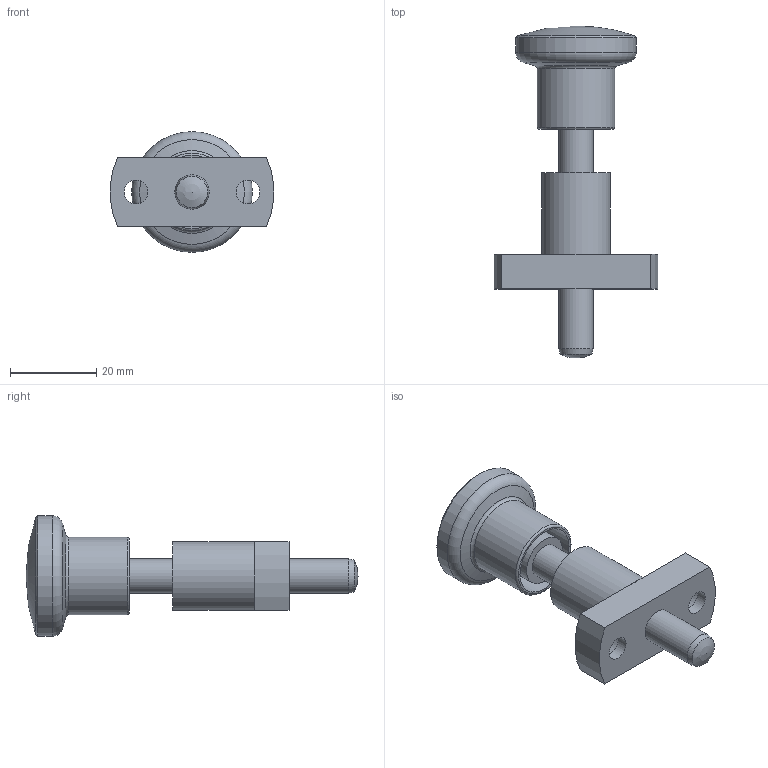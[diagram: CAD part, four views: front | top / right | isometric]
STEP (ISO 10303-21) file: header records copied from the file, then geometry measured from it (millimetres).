
FILE_DESCRIPTION( ( 'STEP AP203' ), '1' );
FILE_NAME( 'C:/Temp/Ganter_Step_05_03_2020/data/3_1/gn817_3/gn_817_3_b/Indexing plunger GN 817.3-8-26-B (activated).stp', '2020-03-12T09:03:00', ( 'License CC BY-ND 4.0' ), ( 'CADENAS' ), ' ', 'PARTsolutions', ' ' );
FILE_SCHEMA( ( 'CONFIG_CONTROL_DESIGN' ) );
Length unit declared in the file: millimetre
Products named in the file (3): Indexing plunger GN 817.3-8-26-B (activated); _Indexing plunger GN 817.3-8-26-B betaetigt-2; _Indexing plunger GN 817.3-8-26-B (activated)-1
Assembly tree (2 placements, depth 2):
  Indexing plunger GN 817.3-8-26-B (activated)
    _Indexing plunger GN 817.3-8-26-B betaetigt-2
    _Indexing plunger GN 817.3-8-26-B (activated)-1
Bounding box: 37.86 x 77 x 28 mm (x, y, z)
Volume: 15476.8 mm3; surface area: 9356.6 mm2
Topology: 2 solids, 2 shells, 40 faces, 77 edges, 48 vertices
Faces by surface type: cylinder 17, plane 15, cone 3, torus 3, sphere 2
Full cylindrical faces by diameter (mm): 5.5 x2, 8 x4, 9 x2, 9.4 x2, 11.8 x1, 16 x1, 16.1 x1, 18 x1, 28 x1
Entity records: 998 total; most frequent: DIRECTION 176, CARTESIAN_POINT 139, ORIENTED_EDGE 100, AXIS2_PLACEMENT_3D 83, EDGE_LOOP 76, FACE_OUTER_BOUND 58, EDGE_CURVE 50, VERTEX_POINT 46
